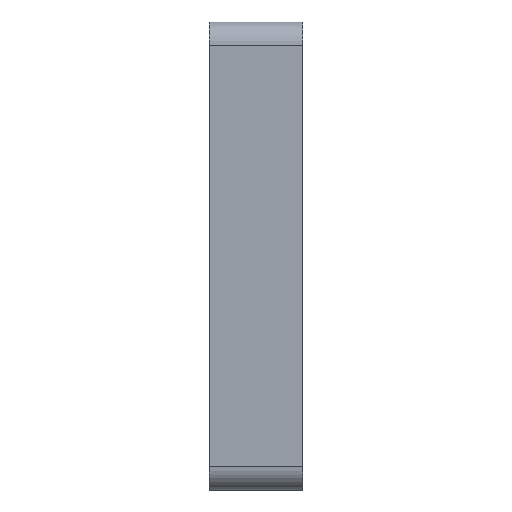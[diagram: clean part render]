
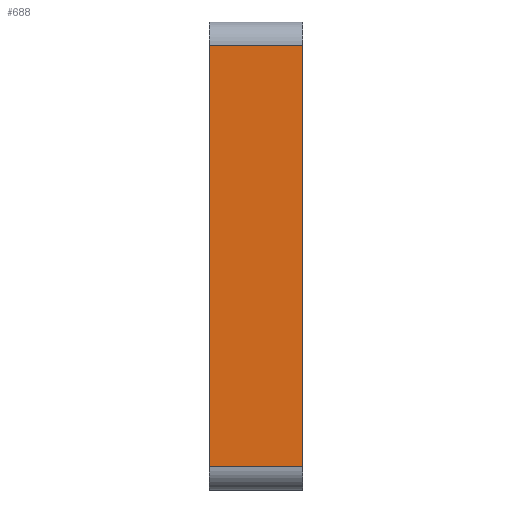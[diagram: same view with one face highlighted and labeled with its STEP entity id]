
A CAD part, left-side view. The second image highlights one B-rep face of the part: STEP entity #688.
In plain terms, the highlighted planar face has unit normal (-1, 0, 0).
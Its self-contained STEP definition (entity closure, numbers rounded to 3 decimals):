
#31=PLANE('',#871);
#68=FACE_OUTER_BOUND('',#107,.T.);
#107=EDGE_LOOP('',(#602,#603,#604,#605));
#187=LINE('',#1891,#241);
#208=LINE('',#1948,#262);
#209=LINE('',#1951,#263);
#210=LINE('',#1952,#264);
#241=VECTOR('',#976,10.);
#262=VECTOR('',#1041,10.);
#263=VECTOR('',#1044,10.);
#264=VECTOR('',#1045,10.);
#316=VERTEX_POINT('',#1888);
#317=VERTEX_POINT('',#1890);
#331=VERTEX_POINT('',#1946);
#332=VERTEX_POINT('',#1950);
#400=EDGE_CURVE('',#316,#317,#187,.T.);
#429=EDGE_CURVE('',#316,#331,#208,.T.);
#430=EDGE_CURVE('',#332,#331,#209,.T.);
#431=EDGE_CURVE('',#317,#332,#210,.T.);
#602=ORIENTED_EDGE('',*,*,#429,.T.);
#603=ORIENTED_EDGE('',*,*,#430,.F.);
#604=ORIENTED_EDGE('',*,*,#431,.F.);
#605=ORIENTED_EDGE('',*,*,#400,.F.);
#688=ADVANCED_FACE('',(#68),#31,.T.);
#871=AXIS2_PLACEMENT_3D('',#1949,#1042,#1043);
#976=DIRECTION('',(0.,0.,-1.));
#1041=DIRECTION('',(0.,1.,0.));
#1042=DIRECTION('center_axis',(-1.,0.,0.));
#1043=DIRECTION('ref_axis',(0.,0.,1.));
#1044=DIRECTION('',(0.,0.,1.));
#1045=DIRECTION('',(0.,1.,0.));
#1888=CARTESIAN_POINT('',(0.,-5.,47.5));
#1890=CARTESIAN_POINT('',(0.,-5.,2.5));
#1891=CARTESIAN_POINT('',(0.,-5.,2.5));
#1946=CARTESIAN_POINT('',(0.,5.,47.5));
#1948=CARTESIAN_POINT('',(0.,0.,47.5));
#1949=CARTESIAN_POINT('Origin',(0.,0.,2.5));
#1950=CARTESIAN_POINT('',(0.,5.,2.5));
#1951=CARTESIAN_POINT('',(0.,5.,2.5));
#1952=CARTESIAN_POINT('',(0.,0.,2.5));
